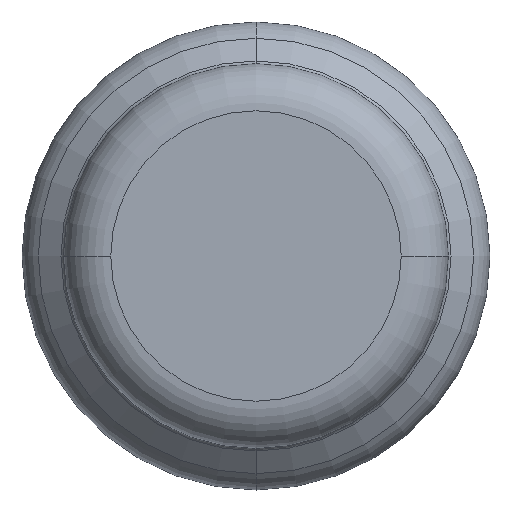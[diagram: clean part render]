
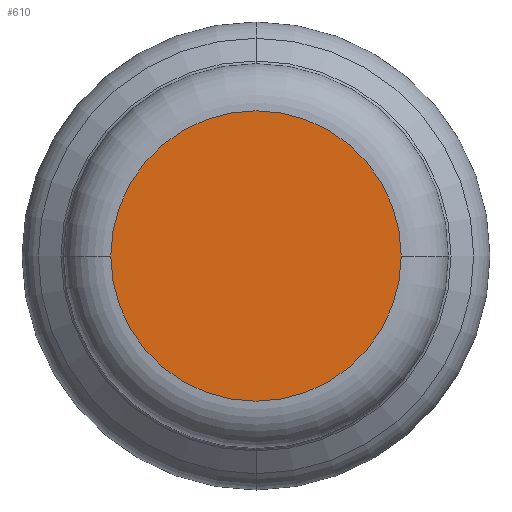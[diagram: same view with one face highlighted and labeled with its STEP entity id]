
A CAD part, front view. The second image highlights one B-rep face of the part: STEP entity #610.
In plain terms, the highlighted planar face has unit normal (0, -1, 0).
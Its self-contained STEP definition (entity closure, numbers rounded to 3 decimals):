
#370=CARTESIAN_POINT('',(12.675,-7.1,-11.888));
#380=DIRECTION('',(0.,-1.,0.));
#390=DIRECTION('',(1.,0.,0.));
#400=AXIS2_PLACEMENT_3D('',#370,#380,#390);
#410=PLANE('',#400);
#420=CARTESIAN_POINT('',(12.675,-7.1,0.025));
#430=DIRECTION('',(0.,1.,0.));
#440=DIRECTION('',(-1.,0.,0.));
#450=AXIS2_PLACEMENT_3D('',#420,#430,#440);
#460=CIRCLE('',#450,9.55);
#470=CARTESIAN_POINT('',(12.675,-7.1,9.575));
#480=VERTEX_POINT('',#470);
#490=CARTESIAN_POINT('',(22.225,-7.1,0.025));
#500=VERTEX_POINT('',#490);
#510=EDGE_CURVE('',#480,#500,#460,.T.);
#520=ORIENTED_EDGE('',*,*,#510,.F.);
#530=CARTESIAN_POINT('',(3.125,-7.1,0.025));
#540=VERTEX_POINT('',#530);
#550=EDGE_CURVE('',#500,#540,#460,.T.);
#560=ORIENTED_EDGE('',*,*,#550,.F.);
#570=EDGE_CURVE('',#540,#480,#460,.T.);
#580=ORIENTED_EDGE('',*,*,#570,.F.);
#590=EDGE_LOOP('',(#580,#560,#520));
#600=FACE_OUTER_BOUND('',#590,.T.);
#610=ADVANCED_FACE('',(#600),#410,.T.);
